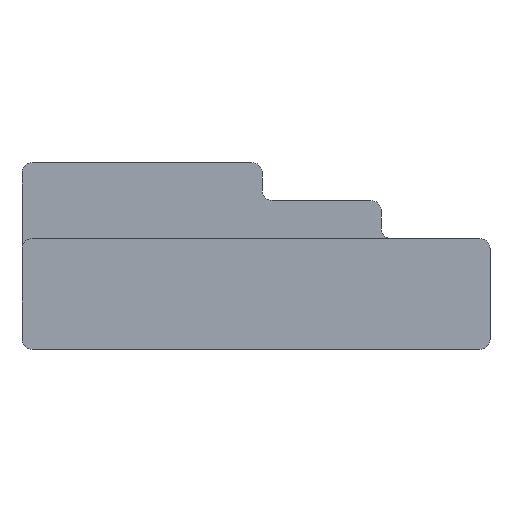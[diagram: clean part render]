
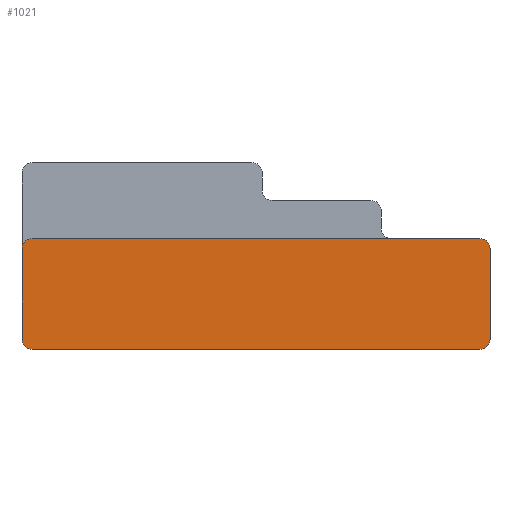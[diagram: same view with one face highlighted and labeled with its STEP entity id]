
A CAD part, front view. The second image highlights one B-rep face of the part: STEP entity #1021.
In plain terms, the highlighted planar face has unit normal (0, -1, 0).
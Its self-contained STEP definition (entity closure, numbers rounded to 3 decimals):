
#180=CARTESIAN_POINT('',(-10.9,-11.6,4.9));
#181=DIRECTION('',(0.,-1.,0.));
#182=DIRECTION('',(0.,0.,1.));
#183=AXIS2_PLACEMENT_3D('',#180,#181,#182);
#185=CARTESIAN_POINT('',(10.9,-11.6,4.9));
#186=DIRECTION('',(0.,-1.,0.));
#187=DIRECTION('',(1.,0.,0.));
#188=AXIS2_PLACEMENT_3D('',#185,#186,#187);
#190=CARTESIAN_POINT('',(10.9,-11.6,0.5));
#191=DIRECTION('',(0.,-1.,0.));
#192=DIRECTION('',(0.,0.,-1.));
#193=AXIS2_PLACEMENT_3D('',#190,#191,#192);
#195=CARTESIAN_POINT('',(-10.9,-11.6,0.5));
#196=DIRECTION('',(0.,-1.,0.));
#197=DIRECTION('',(-1.,0.,0.));
#198=AXIS2_PLACEMENT_3D('',#195,#196,#197);
#200=DIRECTION('',(0.,0.,1.));
#201=VECTOR('',#200,4.4);
#202=CARTESIAN_POINT('',(-11.4,-11.6,0.5));
#203=LINE('',#202,#201);
#288=DIRECTION('',(1.,0.,0.));
#289=VECTOR('',#288,21.8);
#290=CARTESIAN_POINT('',(-10.9,-11.6,5.4));
#291=LINE('',#290,#289);
#480=DIRECTION('',(1.,0.,0.));
#481=VECTOR('',#480,21.8);
#482=CARTESIAN_POINT('',(-10.9,-11.6,0.));
#483=LINE('',#482,#481);
#550=DIRECTION('',(0.,0.,1.));
#551=VECTOR('',#550,4.4);
#552=CARTESIAN_POINT('',(11.4,-11.6,0.5));
#553=LINE('',#552,#551);
#660=CARTESIAN_POINT('',(-10.9,-11.6,5.4));
#661=CARTESIAN_POINT('',(-11.4,-11.6,4.9));
#662=VERTEX_POINT('',#660);
#663=VERTEX_POINT('',#661);
#688=CARTESIAN_POINT('',(11.4,-11.6,4.9));
#689=VERTEX_POINT('',#688);
#690=CARTESIAN_POINT('',(10.9,-11.6,5.4));
#691=VERTEX_POINT('',#690);
#692=CARTESIAN_POINT('',(10.9,-11.6,0.));
#693=CARTESIAN_POINT('',(11.4,-11.6,0.5));
#694=VERTEX_POINT('',#692);
#695=VERTEX_POINT('',#693);
#704=CARTESIAN_POINT('',(-11.4,-11.6,0.5));
#705=VERTEX_POINT('',#704);
#706=CARTESIAN_POINT('',(-10.9,-11.6,0.));
#707=VERTEX_POINT('',#706);
#999=CARTESIAN_POINT('',(-11.4,-11.6,0.));
#1000=DIRECTION('',(0.,-1.,0.));
#1001=DIRECTION('',(1.,0.,0.));
#1002=AXIS2_PLACEMENT_3D('',#999,#1000,#1001);
#1003=PLANE('',#1002);
#1005=ORIENTED_EDGE('',*,*,#1004,.F.);
#1007=ORIENTED_EDGE('',*,*,#1006,.T.);
#1009=ORIENTED_EDGE('',*,*,#1008,.F.);
#1011=ORIENTED_EDGE('',*,*,#1010,.F.);
#1012=ORIENTED_EDGE('',*,*,#989,.F.);
#1014=ORIENTED_EDGE('',*,*,#1013,.F.);
#1016=ORIENTED_EDGE('',*,*,#1015,.F.);
#1018=ORIENTED_EDGE('',*,*,#1017,.T.);
#1019=EDGE_LOOP('',(#1005,#1007,#1009,#1011,#1012,#1014,#1016,#1018));
#1020=FACE_OUTER_BOUND('',#1019,.F.);
#1021=ADVANCED_FACE('',(#1020),#1003,.T.);
#184=CIRCLE('',#183,0.5);
#189=CIRCLE('',#188,0.5);
#194=CIRCLE('',#193,0.5);
#199=CIRCLE('',#198,0.5);
#989=EDGE_CURVE('',#694,#695,#194,.T.);
#1004=EDGE_CURVE('',#662,#663,#184,.T.);
#1006=EDGE_CURVE('',#662,#691,#291,.T.);
#1008=EDGE_CURVE('',#689,#691,#189,.T.);
#1010=EDGE_CURVE('',#695,#689,#553,.T.);
#1013=EDGE_CURVE('',#707,#694,#483,.T.);
#1015=EDGE_CURVE('',#705,#707,#199,.T.);
#1017=EDGE_CURVE('',#705,#663,#203,.T.);
